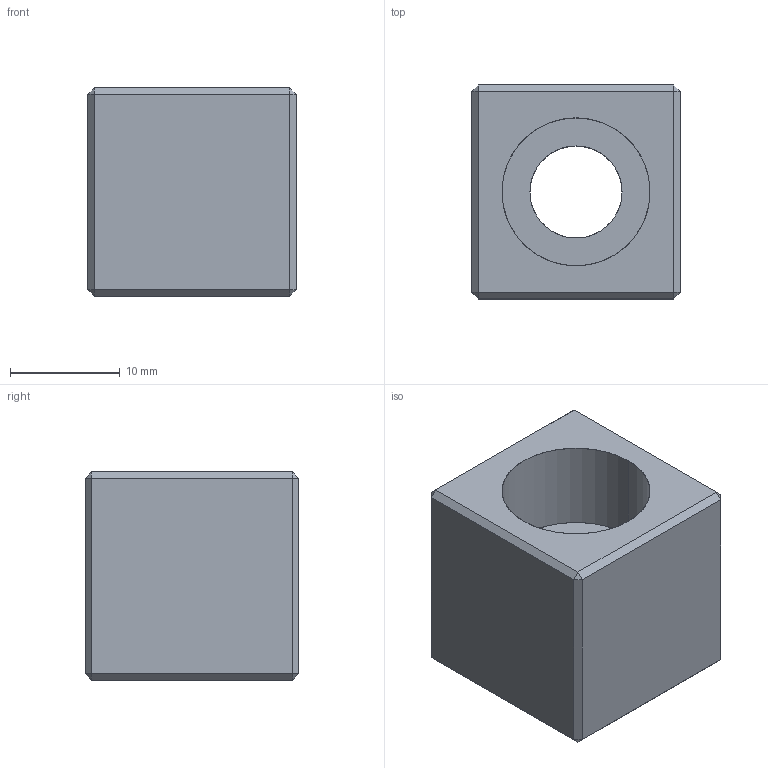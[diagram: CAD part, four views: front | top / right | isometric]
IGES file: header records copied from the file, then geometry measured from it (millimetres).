
Start section: SolidWorks IGES FILE using analytic representation for surfaces
Global section: file name: C:\WIX2\Positioning\3030\3030W045.igs; native system: SolidWorks 2003 by SolidWorks Corporation; preprocessor: Version 5.3; author: Joan; date: 030722.120004; units: millimetre
Bounding box: 19 x 19.5 x 19 mm (x, y, z)
Surface area: 2649.8 mm2 (no closed solid volume)
Topology: 0 solids, 0 shells, 31 faces, 240 edges, 240 vertices
Faces by surface type: bspline 27, revolution 4
